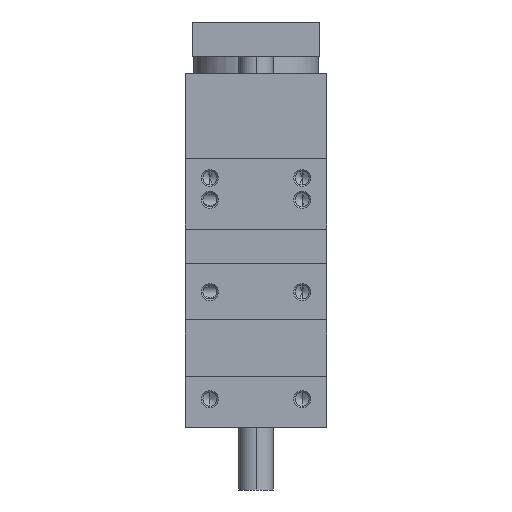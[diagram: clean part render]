
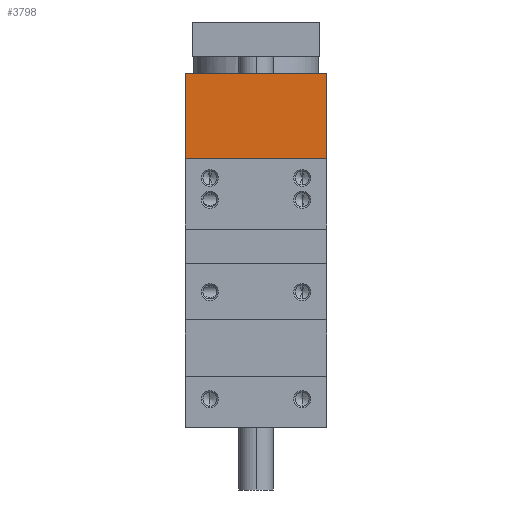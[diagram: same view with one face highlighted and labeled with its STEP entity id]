
A CAD part, left-side view. The second image highlights one B-rep face of the part: STEP entity #3798.
In plain terms, the highlighted planar face has unit normal (-1, 0, 0).
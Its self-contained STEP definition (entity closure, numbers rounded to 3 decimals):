
#94 = AXIS2_PLACEMENT_3D ( 'NONE', #1339, #9742, #10710 ) ;
#783 = VECTOR ( 'NONE', #3563, 1000. ) ;
#852 = VECTOR ( 'NONE', #3866, 1000. ) ;
#1339 = CARTESIAN_POINT ( 'NONE',  ( -48.2, 50., 19. ) ) ;
#2174 = CARTESIAN_POINT ( 'NONE',  ( -48.2, 25., 0. ) ) ;
#2204 = CARTESIAN_POINT ( 'NONE',  ( -48.2, -25., 19. ) ) ;
#2838 = CARTESIAN_POINT ( 'NONE',  ( -48.2, -25., 49. ) ) ;
#2891 = EDGE_LOOP ( 'NONE', ( #4958, #5046, #5810, #3099 ) ) ;
#2962 = VERTEX_POINT ( 'NONE', #2838 ) ;
#3076 = LINE ( 'NONE', #9105, #9092 ) ;
#3099 = ORIENTED_EDGE ( 'NONE', *, *, #5430, .F. ) ;
#3375 = EDGE_CURVE ( 'NONE', #2962, #3407, #7834, .T. ) ;
#3407 = VERTEX_POINT ( 'NONE', #2204 ) ;
#3563 = DIRECTION ( 'NONE',  ( 0., 0., -1. ) ) ;
#3783 = PLANE ( 'NONE',  #94 ) ;
#3798 = ADVANCED_FACE ( 'NONE', ( #9064 ), #3783, .F. ) ;
#3866 = DIRECTION ( 'NONE',  ( 0., 0., -1. ) ) ;
#4348 = VERTEX_POINT ( 'NONE', #5044 ) ;
#4386 = CARTESIAN_POINT ( 'NONE',  ( -48.2, 50., 19. ) ) ;
#4958 = ORIENTED_EDGE ( 'NONE', *, *, #9195, .T. ) ;
#5044 = CARTESIAN_POINT ( 'NONE',  ( -48.2, 25., 19. ) ) ;
#5046 = ORIENTED_EDGE ( 'NONE', *, *, #7489, .T. ) ;
#5430 = EDGE_CURVE ( 'NONE', #7469, #2962, #3076, .T. ) ;
#5810 = ORIENTED_EDGE ( 'NONE', *, *, #3375, .F. ) ;
#6078 = DIRECTION ( 'NONE',  ( 0., -1., 0. ) ) ;
#7469 = VERTEX_POINT ( 'NONE', #10260 ) ;
#7489 = EDGE_CURVE ( 'NONE', #4348, #3407, #7490, .T. ) ;
#7490 = LINE ( 'NONE', #4386, #9679 ) ;
#7834 = LINE ( 'NONE', #9474, #783 ) ;
#8196 = LINE ( 'NONE', #2174, #852 ) ;
#8364 = DIRECTION ( 'NONE',  ( 0., -1., 0. ) ) ;
#9064 = FACE_OUTER_BOUND ( 'NONE', #2891, .T. ) ;
#9092 = VECTOR ( 'NONE', #8364, 1000. ) ;
#9105 = CARTESIAN_POINT ( 'NONE',  ( -48.2, 50., 49. ) ) ;
#9195 = EDGE_CURVE ( 'NONE', #7469, #4348, #8196, .T. ) ;
#9474 = CARTESIAN_POINT ( 'NONE',  ( -48.2, -25., 0. ) ) ;
#9679 = VECTOR ( 'NONE', #6078, 1000. ) ;
#9742 = DIRECTION ( 'NONE',  ( 1., 0., 0. ) ) ;
#10260 = CARTESIAN_POINT ( 'NONE',  ( -48.2, 25., 49. ) ) ;
#10710 = DIRECTION ( 'NONE',  ( 0., 1., 0. ) ) ;
